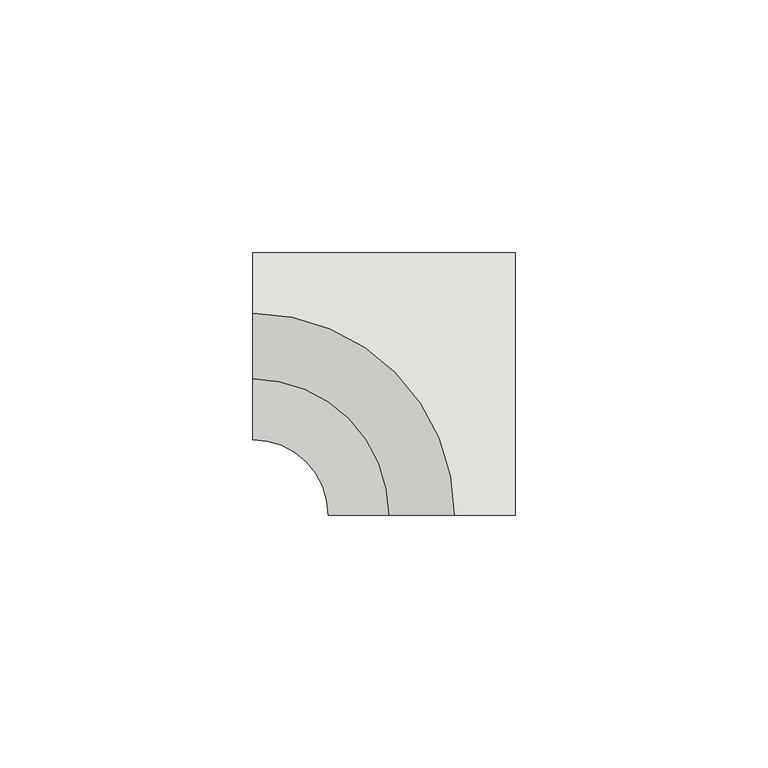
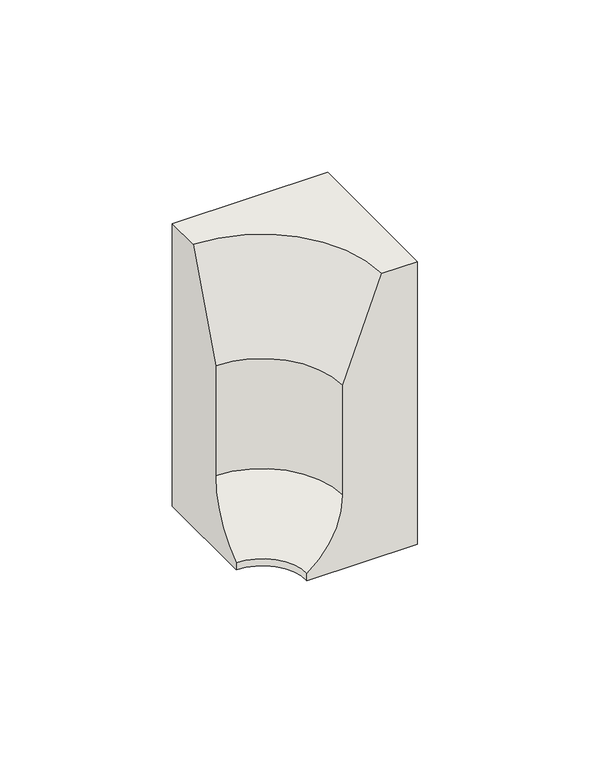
"""IFC4 building model written with IfcOpenShell, lengths in millimetres: wall geometry, GM_PC_UN_ACO kerb PB inside corner_ACO : PB H100 plain."""

from ifc_helpers import new_model, si_unit, point, frame, origin, place, context, project, spatial, polyline, circle_curve, ellipse_curve, trimmed, source, transform, mapped, element, save
from ifc_brep_helpers import plane_surface, revolved_surface, advanced_brep


def wall_77bbd41e(model_context):
    return source(origin(), model_context, "Body", "AdvancedBrep", [
        advanced_brep(
        [(0.0, 0.0, 100.0), (-52.0, 0.0, 100.0), (-52.0, -12.0, 100.0), (-12.0, -52.0, 100.0), (0.0, -52.0, 100.0), (0.0, 0.0, 0.0), (0.0, -52.0, 0.0), (-37.0, -52.0, 0.0), (-52.0, -37.0, 0.0), (-52.0, 0.0, 0.0), (-52.0, -25.0, 65.0), (-52.0, -37.0, 2.5), (-52.0, -25.0, 26.0), (-25.0, -52.0, 65.0), (-25.0, -52.0, 26.0), (-37.0, -52.0, 2.5)],
        [
            (0, 1),
            (1, 2),
            (2, 3, circle_curve(frame((-52.0, -52.0, 100.0), z_axis=(0.0, 0.0, -1.0), x_axis=(0.0, 1.0, 0.0)), 40.0)),
            (3, 4),
            (4, 0),
            (5, 6),
            (6, 7),
            (7, 8, circle_curve(frame((-52.0, -52.0, 0.0), z_axis=(0.0, 0.0, 1.0), x_axis=(0.0, 1.0, 0.0)), 15.0)),
            (8, 9),
            (9, 5),
            (0, 5),
            (9, 1),
            (4, 6),
            (10, 2),
            (8, 11),
            (11, 12, circle_curve(frame((-52.0, -54.0104167, 26.0), z_axis=(1.0, 0.0, 0.0), x_axis=(0.0, 1.0, 0.0)), 29.0104167)),
            (12, 10),
            (13, 14),
            (14, 15, circle_curve(frame((-54.0104167, -52.0, 26.0), z_axis=(0.0, 1.0, 0.0), x_axis=(1.0, 0.0, 0.0)), 29.0104167)),
            (15, 7),
            (3, 13),
            (10, 13, circle_curve(frame((-52.0, -52.0, 65.0), z_axis=(0.0, 0.0, -1.0), x_axis=(0.0, 1.0, 0.0)), 27.0)),
            (15, 11, circle_curve(frame((-52.0, -52.0, 2.5), z_axis=(0.0, 0.0, 1.0), x_axis=(0.0, 1.0, 0.0)), 15.0)),
            (14, 12, circle_curve(frame((-52.0, -52.0, 26.0), z_axis=(0.0, 0.0, 1.0), x_axis=(0.0, 1.0, 0.0)), 27.0)),
        ],
        [
            plane_surface(frame((-52.5, 0.0, 100.0), z_axis=(0.0, 0.0, 1.0), x_axis=(-1.0, 0.0, 0.0))),
            plane_surface(frame((-52.5, 0.0, 0.0), z_axis=(0.0, 0.0, -1.0), x_axis=(1.0, 0.0, 0.0))),
            plane_surface(frame((0.0, 0.0, 100.0), z_axis=(0.0, 1.0, 0.0), x_axis=(0.0, 0.0, -1.0))),
            plane_surface(frame((0.0, -52.0, 100.0), z_axis=(1.0, 0.0, 0.0), x_axis=(0.0, 0.0, -1.0))),
            plane_surface(frame((-52.0, 0.0, 0.0), z_axis=(-1.0, 0.0, 0.0), x_axis=(0.0, 0.0, 1.0))),
            plane_surface(frame((0.0, -52.0, 0.0), z_axis=(0.0, -1.0, 0.0), x_axis=(0.0, 0.0, 1.0))),
            revolved_surface(polyline([(-52.0, -25.0, 65.0), (-52.0, -12.0, 100.0)]), (-52.0, -52.0, 0.0), (0.0, 0.0, -1.0)),
            revolved_surface(polyline([(-52.0, -37.0, 0.0), (-52.0, -37.0, 2.5)]), (-52.0, -52.0, 0.0), (0.0, 0.0, -1.0)),
            revolved_surface(trimmed(ellipse_curve(frame((-52.0, -54.0104167, 26.0), z_axis=(1.0, 0.0, 0.0), x_axis=(0.0, 1.0, 0.0)), 29.0104167, 29.0104167), [point((-52.0, -37.0, 2.5))], [point((-52.0, -25.0, 26.0))], True, "CARTESIAN"), (-52.0, -52.0, 0.0), (0.0, 0.0, -1.0)),
            revolved_surface(polyline([(-52.0, -25.0, 26.0), (-52.0, -25.0, 65.0)]), (-52.0, -52.0, 0.0), (0.0, 0.0, -1.0)),
        ],
        [
            (0, [[1, 2, 3, 4, 5]]),
            (1, [[6, 7, 8, 9, 10]]),
            (2, [[-1, 11, -10, 12]]),
            (3, [[-5, 13, -6, -11]]),
            (4, [[14, -2, -12, -9, 15, 16, 17]]),
            (5, [[18, 19, 20, -7, -13, -4, 21]]),
            (6, [[-14, 22, -21, -3]]),
            (7, [[-15, -8, -20, 23]]),
            (8, [[-16, -23, -19, 24]]),
            (9, [[-17, -24, -18, -22]]),
        ],
    ),
    ])


if __name__ == "__main__":
    model = new_model("IFC4")
    model_context = context("Model", 3, world=origin())
    ifc_project = project(units=[si_unit("LENGTHUNIT", "METRE", prefix="MILLI")], contexts=[model_context])
    site = spatial("IfcSite", under=ifc_project)
    building = spatial("IfcBuilding", under=site)
    placement = place(None, origin())
    wall_shape = wall_77bbd41e(model_context)
    element("IfcWall", 1, ObjectType="GM_PC_UN_ACO kerb PB inside corner_ACO : PB H100 plain", at=placement, inside=building, context=model_context, shape_type="MappedRepresentation", body=[
        mapped(wall_shape, transform((0.0, 0.0, 0.0), x_axis=(1.0, 0.0, 0.0), y_axis=(0.0, 1.0, 0.0), z_axis=(0.0, 0.0, 1.0))),
    ])
    save(model, "model.ifc")
